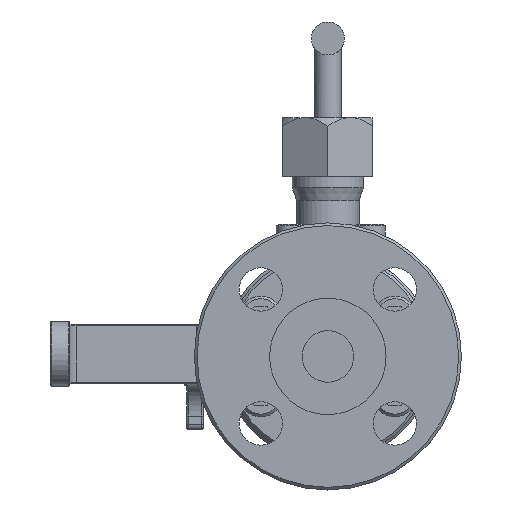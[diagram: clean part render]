
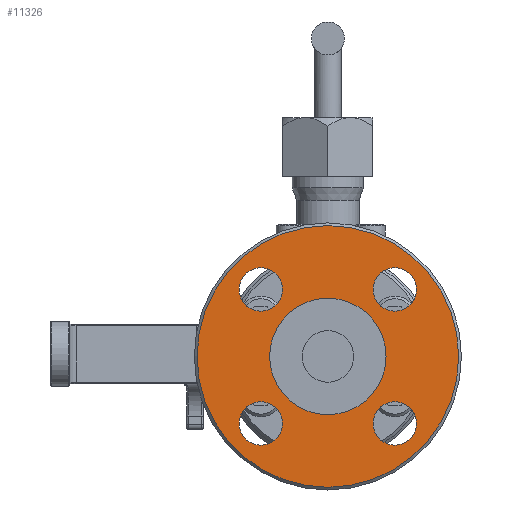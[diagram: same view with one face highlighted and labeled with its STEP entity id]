
A CAD part, left-side view. The second image highlights one B-rep face of the part: STEP entity #11326.
In plain terms, the highlighted planar face has unit normal (-1, 0, 0).
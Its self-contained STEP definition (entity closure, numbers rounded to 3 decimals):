
#2412=FACE_BOUND('',#3253,.T.);
#2413=FACE_BOUND('',#3254,.T.);
#2414=FACE_BOUND('',#3255,.T.);
#2415=FACE_BOUND('',#3256,.T.);
#2416=FACE_BOUND('',#3257,.T.);
#2570=FACE_OUTER_BOUND('',#3252,.T.);
#3252=EDGE_LOOP('',(#7897,#7898));
#3253=EDGE_LOOP('',(#7899));
#3254=EDGE_LOOP('',(#7900));
#3255=EDGE_LOOP('',(#7901));
#3256=EDGE_LOOP('',(#7902));
#3257=EDGE_LOOP('',(#7903,#7904));
#3970=CIRCLE('',#12109,8.);
#3972=CIRCLE('',#12112,8.);
#3974=CIRCLE('',#12115,8.);
#3976=CIRCLE('',#12118,8.);
#3985=CIRCLE('',#12132,21.45);
#3986=CIRCLE('',#12133,21.45);
#3987=CIRCLE('',#12135,48.2);
#3988=CIRCLE('',#12136,48.2);
#4647=VERTEX_POINT('',#17016);
#4649=VERTEX_POINT('',#17022);
#4651=VERTEX_POINT('',#17028);
#4653=VERTEX_POINT('',#17034);
#4662=VERTEX_POINT('',#17061);
#4663=VERTEX_POINT('',#17062);
#4664=VERTEX_POINT('',#17067);
#4665=VERTEX_POINT('',#17068);
#5885=EDGE_CURVE('',#4647,#4647,#3970,.T.);
#5888=EDGE_CURVE('',#4649,#4649,#3972,.T.);
#5891=EDGE_CURVE('',#4651,#4651,#3974,.T.);
#5894=EDGE_CURVE('',#4653,#4653,#3976,.T.);
#5906=EDGE_CURVE('',#4662,#4663,#3985,.T.);
#5907=EDGE_CURVE('',#4663,#4662,#3986,.T.);
#5909=EDGE_CURVE('',#4664,#4665,#3987,.T.);
#5910=EDGE_CURVE('',#4665,#4664,#3988,.T.);
#7897=ORIENTED_EDGE('',*,*,#5909,.F.);
#7898=ORIENTED_EDGE('',*,*,#5910,.F.);
#7899=ORIENTED_EDGE('',*,*,#5885,.F.);
#7900=ORIENTED_EDGE('',*,*,#5888,.F.);
#7901=ORIENTED_EDGE('',*,*,#5891,.F.);
#7902=ORIENTED_EDGE('',*,*,#5894,.F.);
#7903=ORIENTED_EDGE('',*,*,#5906,.T.);
#7904=ORIENTED_EDGE('',*,*,#5907,.T.);
#10992=PLANE('',#12134);
#11326=ADVANCED_FACE('',(#2570,#2412,#2413,#2414,#2415,#2416),#10992,.T.);
#12109=AXIS2_PLACEMENT_3D('',#17018,#13677,#13678);
#12112=AXIS2_PLACEMENT_3D('',#17024,#13684,#13685);
#12115=AXIS2_PLACEMENT_3D('',#17030,#13691,#13692);
#12118=AXIS2_PLACEMENT_3D('',#17036,#13698,#13699);
#12132=AXIS2_PLACEMENT_3D('',#17063,#13729,#13730);
#12133=AXIS2_PLACEMENT_3D('',#17064,#13731,#13732);
#12134=AXIS2_PLACEMENT_3D('',#17066,#13734,#13735);
#12135=AXIS2_PLACEMENT_3D('',#17069,#13736,#13737);
#12136=AXIS2_PLACEMENT_3D('',#17070,#13738,#13739);
#13677=DIRECTION('center_axis',(-1.,0.,0.));
#13678=DIRECTION('ref_axis',(0.,0.,-1.));
#13684=DIRECTION('center_axis',(-1.,0.,0.));
#13685=DIRECTION('ref_axis',(0.,0.,-1.));
#13691=DIRECTION('center_axis',(-1.,0.,0.));
#13692=DIRECTION('ref_axis',(0.,0.,-1.));
#13698=DIRECTION('center_axis',(-1.,0.,0.));
#13699=DIRECTION('ref_axis',(0.,0.,-1.));
#13729=DIRECTION('center_axis',(1.,0.,0.));
#13730=DIRECTION('ref_axis',(0.,1.,0.));
#13731=DIRECTION('center_axis',(1.,0.,0.));
#13732=DIRECTION('ref_axis',(0.,1.,0.));
#13734=DIRECTION('center_axis',(-1.,0.,0.));
#13735=DIRECTION('ref_axis',(0.,-1.,0.));
#13736=DIRECTION('center_axis',(1.,0.,0.));
#13737=DIRECTION('ref_axis',(0.,1.,0.));
#13738=DIRECTION('center_axis',(1.,0.,0.));
#13739=DIRECTION('ref_axis',(0.,1.,0.));
#17016=CARTESIAN_POINT('',(2777.06,1131.991,-16.678));
#17018=CARTESIAN_POINT('Origin',(2777.06,1131.991,-24.678));
#17022=CARTESIAN_POINT('',(2777.06,1082.634,-16.678));
#17024=CARTESIAN_POINT('Origin',(2777.06,1082.634,-24.678));
#17028=CARTESIAN_POINT('',(2777.06,1082.634,32.678));
#17030=CARTESIAN_POINT('Origin',(2777.06,1082.634,24.678));
#17034=CARTESIAN_POINT('',(2777.06,1131.991,32.678));
#17036=CARTESIAN_POINT('Origin',(2777.06,1131.991,24.678));
#17061=CARTESIAN_POINT('',(2777.06,1107.312,-21.45));
#17062=CARTESIAN_POINT('',(2777.06,1107.312,21.45));
#17063=CARTESIAN_POINT('Origin',(2777.06,1107.312,0.));
#17064=CARTESIAN_POINT('Origin',(2777.06,1107.312,0.));
#17066=CARTESIAN_POINT('Origin',(2777.06,1107.312,-48.2));
#17067=CARTESIAN_POINT('',(2777.06,1107.312,-48.2));
#17068=CARTESIAN_POINT('',(2777.06,1107.312,48.2));
#17069=CARTESIAN_POINT('Origin',(2777.06,1107.312,0.));
#17070=CARTESIAN_POINT('Origin',(2777.06,1107.312,0.));
